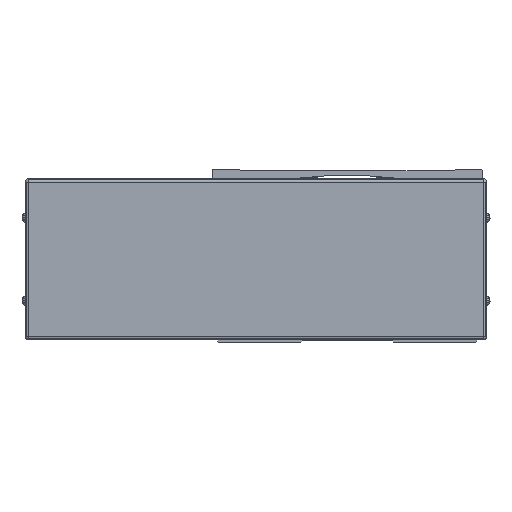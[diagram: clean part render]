
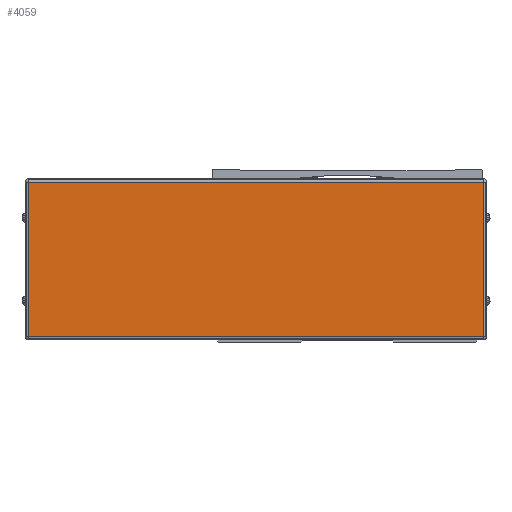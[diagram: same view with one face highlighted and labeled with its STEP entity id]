
A CAD part, front view. The second image highlights one B-rep face of the part: STEP entity #4059.
In plain terms, the highlighted planar face has unit normal (0, -1, 0).
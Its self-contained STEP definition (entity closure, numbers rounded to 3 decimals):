
#4059=ADVANCED_FACE('',(#9168),#9169,.F.);
#9168=FACE_OUTER_BOUND('',#17024,.T.);
#9169=PLANE('',#17025);
#17024=EDGE_LOOP('',(#29826,#29827,#29828,#29829));
#17025=AXIS2_PLACEMENT_3D('',#29830,#29831,#29832);
#29826=ORIENTED_EDGE('',*,*,#44228,.T.);
#29827=ORIENTED_EDGE('',*,*,#42011,.T.);
#29828=ORIENTED_EDGE('',*,*,#41833,.T.);
#29829=ORIENTED_EDGE('',*,*,#44229,.T.);
#29830=CARTESIAN_POINT('',(-655.,52.222,-2.));
#29831=DIRECTION('',(0.,1.0,0.));
#29832=DIRECTION('',(-1.0,0.,0.));
#41833=EDGE_CURVE('',#50859,#50857,#50860,.T.);
#42011=EDGE_CURVE('',#49574,#50859,#51119,.T.);
#44228=EDGE_CURVE('',#54420,#49574,#54421,.T.);
#44229=EDGE_CURVE('',#50857,#54420,#54422,.T.);
#49574=VERTEX_POINT('',#61456);
#50857=VERTEX_POINT('',#63357);
#50859=VERTEX_POINT('',#63359);
#50860=LINE('',#63360,#63361);
#51119=LINE('',#63776,#63777);
#54420=VERTEX_POINT('',#68973);
#54421=LINE('',#68974,#68975);
#54422=LINE('',#68976,#68977);
#61456=CARTESIAN_POINT('',(-792.1,52.222,44.5));
#63357=CARTESIAN_POINT('',(-517.9,52.222,-48.5));
#63359=CARTESIAN_POINT('',(-792.1,52.222,-48.5));
#63360=CARTESIAN_POINT('',(-655.,52.222,-48.5));
#63361=VECTOR('',#76572,10.0);
#63776=CARTESIAN_POINT('',(-792.1,52.222,-2.));
#63777=VECTOR('',#76756,10.0);
#68973=CARTESIAN_POINT('',(-517.9,52.222,44.5));
#68974=CARTESIAN_POINT('',(-655.,52.222,44.5));
#68975=VECTOR('',#79359,10.0);
#68976=CARTESIAN_POINT('',(-517.9,52.222,-2.));
#68977=VECTOR('',#79360,10.0);
#76572=DIRECTION('',(1.0,0.,0.));
#76756=DIRECTION('',(0.,0.,-1.0));
#79359=DIRECTION('',(-1.0,0.,0.));
#79360=DIRECTION('',(0.,0.,1.0));
